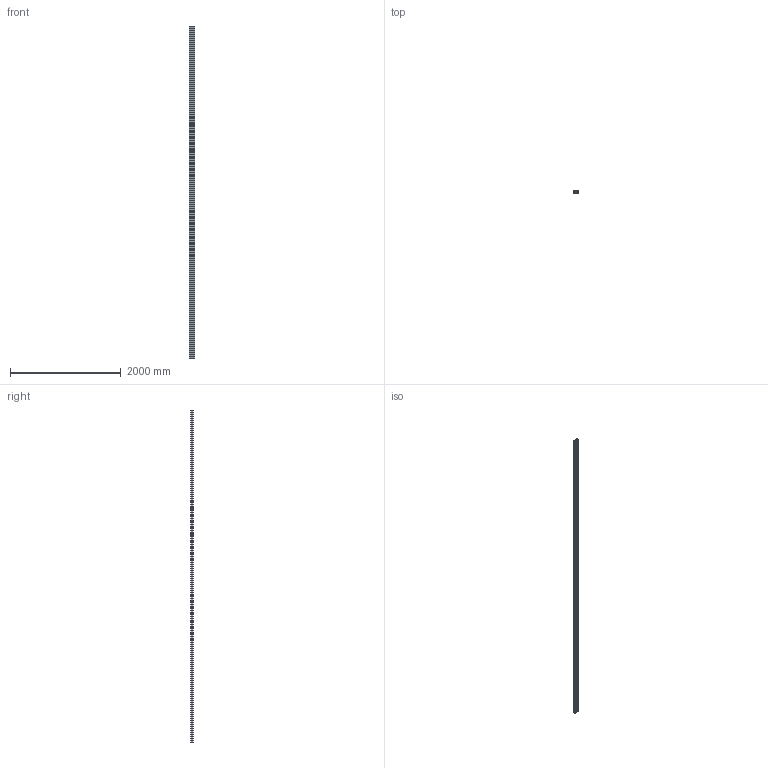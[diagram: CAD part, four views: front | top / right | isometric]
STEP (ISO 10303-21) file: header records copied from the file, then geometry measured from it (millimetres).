
FILE_DESCRIPTION (( 'STEP AP214' ), '1' );
FILE_NAME ('50x100 Slot 10.STEP', '2017-08-06T21:34:45', ( 'Ahmed' ), ( '' ), 'SwSTEP 2.0', 'SolidWorks 2016', '' );
FILE_SCHEMA (( 'AUTOMOTIVE_DESIGN' ));
Length unit declared in the file: millimetre
Products named in the file (2): 50x100 Slot 10
Bounding box: 100 x 50 x 6000 mm (x, y, z)
Volume: 10071401 mm3; surface area: 6336194.6 mm2
Topology: 1 solids, 1 shells, 388 faces, 1137 edges, 758 vertices
Faces by surface type: plane 280, cylinder 82, bspline 26
Entity records: 14638 total; most frequent: CARTESIAN_POINT 4263, ORIENTED_EDGE 2274, DIRECTION 1977, EDGE_CURVE 1137, LINE 921, VECTOR 921, VERTEX_POINT 758, AXIS2_PLACEMENT_3D 528
